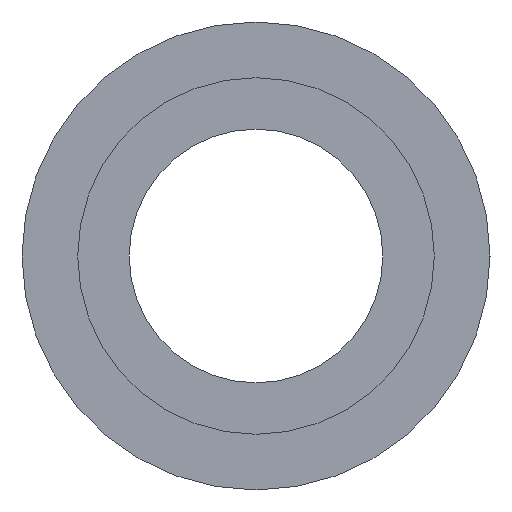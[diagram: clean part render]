
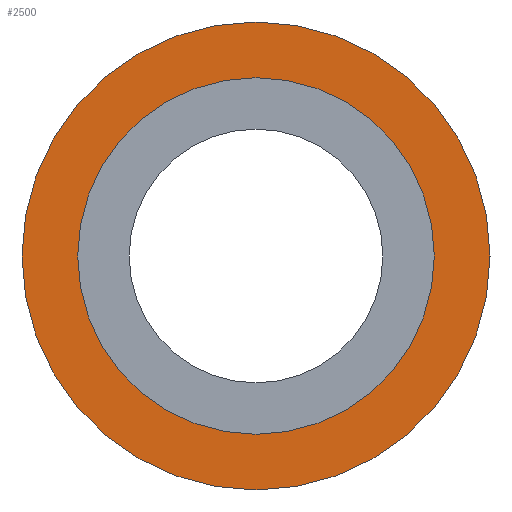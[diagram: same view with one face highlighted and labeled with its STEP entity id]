
A CAD part, left-side view. The second image highlights one B-rep face of the part: STEP entity #2500.
In plain terms, the highlighted planar face has unit normal (-1, 0, 0).
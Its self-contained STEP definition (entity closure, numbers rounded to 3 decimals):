
#120=CARTESIAN_POINT('',(48.504,16.588,
0.));
#130=VERTEX_POINT('',#120);
#160=CARTESIAN_POINT('',(48.504,39.288,
0.));
#170=DIRECTION('',(-1.,0.,0.));
#180=DIRECTION('',(0.,-1.,0.));
#190=AXIS2_PLACEMENT_3D('',#160,#170,#180);
#200=CIRCLE('',#190,22.7);
#210=CARTESIAN_POINT('',(48.504,61.988,0.
));
#220=VERTEX_POINT('',#210);
#230=EDGE_CURVE('',#130,#220,#200,.T.);
#2250=CARTESIAN_POINT('',(48.504,60.588,
0.));
#2260=DIRECTION('',(-1.,-0.,0.));
#2270=DIRECTION('',(0.,-1.,0.));
#2280=AXIS2_PLACEMENT_3D('',#2250,#2260,#2270);
#2290=PLANE('',#2280);
#2300=CARTESIAN_POINT('',(48.504,39.288,
0.));
#2310=DIRECTION('',(-1.,0.,0.));
#2320=DIRECTION('',(0.,0.,1.));
#2330=AXIS2_PLACEMENT_3D('',#2300,#2310,#2320);
#2340=CIRCLE('',#2330,17.3);
#2350=CARTESIAN_POINT('',(48.504,39.288,17.3));
#2360=VERTEX_POINT('',#2350);
#2370=CARTESIAN_POINT('',(48.504,39.288,-17.3));
#2380=VERTEX_POINT('',#2370);
#2390=EDGE_CURVE('',#2360,#2380,#2340,.T.);
#2400=ORIENTED_EDGE('',*,*,#2390,.F.);
#2410=EDGE_CURVE('',#2380,#2360,#2340,.T.);
#2420=ORIENTED_EDGE('',*,*,#2410,.F.);
#2430=EDGE_LOOP('',(#2420,#2400));
#2440=FACE_BOUND('',#2430,.T.);
#2450=ORIENTED_EDGE('',*,*,#230,.T.);
#2460=EDGE_CURVE('',#220,#130,#200,.T.);
#2470=ORIENTED_EDGE('',*,*,#2460,.T.);
#2480=EDGE_LOOP('',(#2470,#2450));
#2490=FACE_OUTER_BOUND('',#2480,.T.);
#2500=ADVANCED_FACE('',(#2440,#2490),#2290,.T.);
